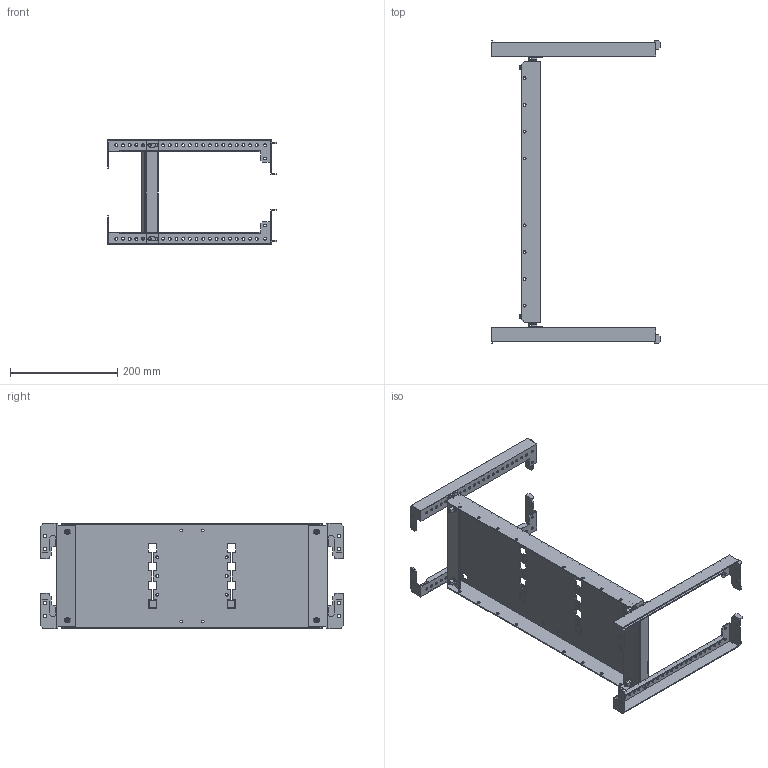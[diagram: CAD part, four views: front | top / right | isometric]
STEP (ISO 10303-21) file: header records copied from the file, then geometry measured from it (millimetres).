
FILE_DESCRIPTION (( 'STEP AP214' ), '1' );
FILE_NAME ('FO-00-GF-020-060 Êîìïëåêò ãîðèçîíòàëüíîé óñòàíîâêè ARMAT MCCB òèïîðàçìåð G ôèêñèðîâàííîãî èñïîëíåíèÿ 3II4P 200õ600 ìì.STEP', '2025-07-16T07:19:06', ( '' ), ( '' ), 'SwSTEP 2.0', 'SolidWorks 2023', '' );
FILE_SCHEMA (( 'AUTOMOTIVE_DESIGN' ));
Length unit declared in the file: millimetre
Products named in the file (5): Винты DIN 912 4xM6x20; Траверса горизонтальная; Панель монтажная G фиксированная 200x600; Траверса горизонтальнаяD; FO-00-GF-020-060 Комплект горизонтальной установки ARMAT MCCB типоразмер G фиксированного исполнения 3II4P 200х600 мм
Assembly tree (6 placements, depth 2):
  FO-00-GF-020-060 Комплект горизонтальной установки ARMAT MCCB типоразмер G фиксированного исполнения 3II4P 200х600 мм
    Панель монтажная G фиксированная 200x600
    Траверса горизонтальная  x2
    Траверса горизонтальнаяD  x2
    Винты DIN 912 4xM6x20
Bounding box: 314.5 x 565.63 x 197 mm (x, y, z)
Volume: 502849.7 mm3; surface area: 520229.2 mm2
Topology: 9 solids, 13 shells, 1090 faces, 2980 edges, 1964 vertices
Faces by surface type: plane 530, cylinder 472, cone 56, torus 32
Entity records: 28731 total; most frequent: CARTESIAN_POINT 5859, DIRECTION 4796, ORIENTED_EDGE 4628, EDGE_CURVE 2314, AXIS2_PLACEMENT_3D 1689, VERTEX_POINT 1520, LINE 1418, VECTOR 1418
